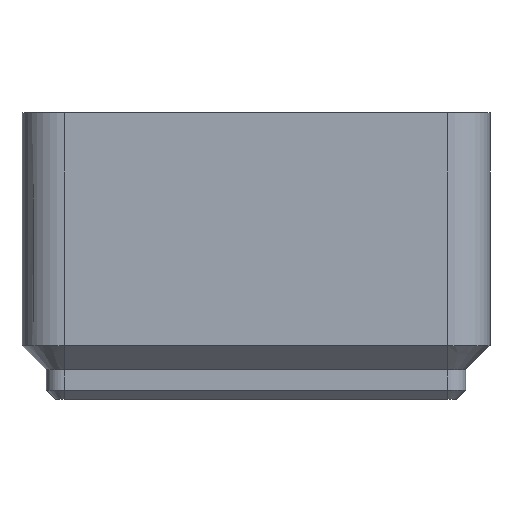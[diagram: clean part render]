
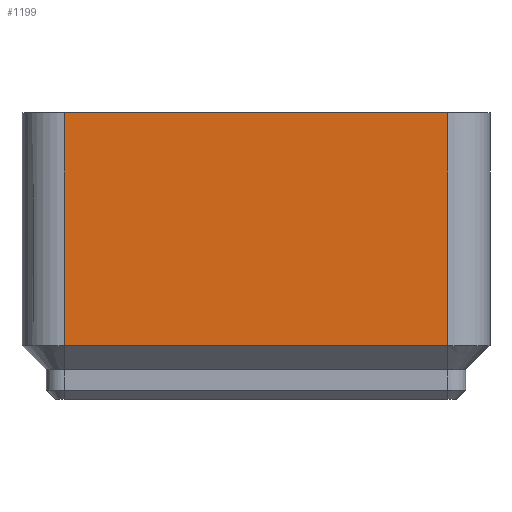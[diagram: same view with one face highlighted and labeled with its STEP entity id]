
A CAD part, left-side view. The second image highlights one B-rep face of the part: STEP entity #1199.
In plain terms, the highlighted planar face has unit normal (-1, 0, 0).
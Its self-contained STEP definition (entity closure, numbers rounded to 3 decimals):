
#416 = PLANE('',#417);
#417 = AXIS2_PLACEMENT_3D('',#418,#419,#420);
#418 = CARTESIAN_POINT('',(-20.75,0.,4.75));
#419 = DIRECTION('',(-0.707,0.,-0.707));
#420 = DIRECTION('',(0.,-1.,-0.));
#793 = VERTEX_POINT('',#794);
#794 = CARTESIAN_POINT('',(-20.75,-17.,4.75));
#812 = EDGE_CURVE('',#793,#813,#815,.T.);
#813 = VERTEX_POINT('',#814);
#814 = CARTESIAN_POINT('',(-20.75,17.,4.75));
#815 = SURFACE_CURVE('',#816,(#820,#827),.PCURVE_S1.);
#816 = LINE('',#817,#818);
#817 = CARTESIAN_POINT('',(-20.75,0.,4.75));
#818 = VECTOR('',#819,1.);
#819 = DIRECTION('',(0.,1.,0.));
#820 = PCURVE('',#416,#821);
#821 = DEFINITIONAL_REPRESENTATION('',(#822),#826);
#822 = LINE('',#823,#824);
#823 = CARTESIAN_POINT('',(0.,0.));
#824 = VECTOR('',#825,1.);
#825 = DIRECTION('',(-1.,0.));
#826 = ( GEOMETRIC_REPRESENTATION_CONTEXT(2) 
PARAMETRIC_REPRESENTATION_CONTEXT() REPRESENTATION_CONTEXT('2D SPACE',''
  ) );
#827 = PCURVE('',#828,#833);
#828 = PLANE('',#829);
#829 = AXIS2_PLACEMENT_3D('',#830,#831,#832);
#830 = CARTESIAN_POINT('',(-20.75,0.,5.05));
#831 = DIRECTION('',(-1.,0.,0.));
#832 = DIRECTION('',(-0.,-1.,-0.));
#833 = DEFINITIONAL_REPRESENTATION('',(#834),#838);
#834 = LINE('',#835,#836);
#835 = CARTESIAN_POINT('',(0.,-0.3));
#836 = VECTOR('',#837,1.);
#837 = DIRECTION('',(-1.,0.));
#838 = ( GEOMETRIC_REPRESENTATION_CONTEXT(2) 
PARAMETRIC_REPRESENTATION_CONTEXT() REPRESENTATION_CONTEXT('2D SPACE',''
  ) );
#1187 = CYLINDRICAL_SURFACE('',#1188,3.75);
#1188 = AXIS2_PLACEMENT_3D('',#1189,#1190,#1191);
#1189 = CARTESIAN_POINT('',(-17.,-17.,4.75));
#1190 = DIRECTION('',(-0.,-0.,1.));
#1191 = DIRECTION('',(-1.,0.,0.));
#1199 = ADVANCED_FACE('',(#1200),#828,.T.);
#1200 = FACE_BOUND('',#1201,.T.);
#1201 = EDGE_LOOP('',(#1202,#1203,#1226,#1254));
#1202 = ORIENTED_EDGE('',*,*,#812,.F.);
#1203 = ORIENTED_EDGE('',*,*,#1204,.T.);
#1204 = EDGE_CURVE('',#793,#1205,#1207,.T.);
#1205 = VERTEX_POINT('',#1206);
#1206 = CARTESIAN_POINT('',(-20.75,-17.,25.4));
#1207 = SURFACE_CURVE('',#1208,(#1212,#1219),.PCURVE_S1.);
#1208 = LINE('',#1209,#1210);
#1209 = CARTESIAN_POINT('',(-20.75,-17.,4.75));
#1210 = VECTOR('',#1211,1.);
#1211 = DIRECTION('',(0.,0.,1.));
#1212 = PCURVE('',#828,#1213);
#1213 = DEFINITIONAL_REPRESENTATION('',(#1214),#1218);
#1214 = LINE('',#1215,#1216);
#1215 = CARTESIAN_POINT('',(17.,-0.3));
#1216 = VECTOR('',#1217,1.);
#1217 = DIRECTION('',(-0.,1.));
#1218 = ( GEOMETRIC_REPRESENTATION_CONTEXT(2) 
PARAMETRIC_REPRESENTATION_CONTEXT() REPRESENTATION_CONTEXT('2D SPACE',''
  ) );
#1219 = PCURVE('',#1187,#1220);
#1220 = DEFINITIONAL_REPRESENTATION('',(#1221),#1225);
#1221 = LINE('',#1222,#1223);
#1222 = CARTESIAN_POINT('',(0.,0.));
#1223 = VECTOR('',#1224,1.);
#1224 = DIRECTION('',(0.,1.));
#1225 = ( GEOMETRIC_REPRESENTATION_CONTEXT(2) 
PARAMETRIC_REPRESENTATION_CONTEXT() REPRESENTATION_CONTEXT('2D SPACE',''
  ) );
#1226 = ORIENTED_EDGE('',*,*,#1227,.T.);
#1227 = EDGE_CURVE('',#1205,#1228,#1230,.T.);
#1228 = VERTEX_POINT('',#1229);
#1229 = CARTESIAN_POINT('',(-20.75,17.,25.4));
#1230 = SURFACE_CURVE('',#1231,(#1235,#1242),.PCURVE_S1.);
#1231 = LINE('',#1232,#1233);
#1232 = CARTESIAN_POINT('',(-20.75,0.,25.4));
#1233 = VECTOR('',#1234,1.);
#1234 = DIRECTION('',(0.,1.,0.));
#1235 = PCURVE('',#828,#1236);
#1236 = DEFINITIONAL_REPRESENTATION('',(#1237),#1241);
#1237 = LINE('',#1238,#1239);
#1238 = CARTESIAN_POINT('',(-0.,20.35));
#1239 = VECTOR('',#1240,1.);
#1240 = DIRECTION('',(-1.,0.));
#1241 = ( GEOMETRIC_REPRESENTATION_CONTEXT(2) 
PARAMETRIC_REPRESENTATION_CONTEXT() REPRESENTATION_CONTEXT('2D SPACE',''
  ) );
#1242 = PCURVE('',#1243,#1248);
#1243 = PLANE('',#1244);
#1244 = AXIS2_PLACEMENT_3D('',#1245,#1246,#1247);
#1245 = CARTESIAN_POINT('',(0.,0.,25.4)
  );
#1246 = DIRECTION('',(0.,0.,1.));
#1247 = DIRECTION('',(1.,0.,-0.));
#1248 = DEFINITIONAL_REPRESENTATION('',(#1249),#1253);
#1249 = LINE('',#1250,#1251);
#1250 = CARTESIAN_POINT('',(-20.75,0.));
#1251 = VECTOR('',#1252,1.);
#1252 = DIRECTION('',(0.,1.));
#1253 = ( GEOMETRIC_REPRESENTATION_CONTEXT(2) 
PARAMETRIC_REPRESENTATION_CONTEXT() REPRESENTATION_CONTEXT('2D SPACE',''
  ) );
#1254 = ORIENTED_EDGE('',*,*,#1255,.T.);
#1255 = EDGE_CURVE('',#1228,#813,#1256,.T.);
#1256 = SURFACE_CURVE('',#1257,(#1261,#1268),.PCURVE_S1.);
#1257 = LINE('',#1258,#1259);
#1258 = CARTESIAN_POINT('',(-20.75,17.,25.4));
#1259 = VECTOR('',#1260,1.);
#1260 = DIRECTION('',(0.,0.,-1.));
#1261 = PCURVE('',#828,#1262);
#1262 = DEFINITIONAL_REPRESENTATION('',(#1263),#1267);
#1263 = LINE('',#1264,#1265);
#1264 = CARTESIAN_POINT('',(-17.,20.35));
#1265 = VECTOR('',#1266,1.);
#1266 = DIRECTION('',(0.,-1.));
#1267 = ( GEOMETRIC_REPRESENTATION_CONTEXT(2) 
PARAMETRIC_REPRESENTATION_CONTEXT() REPRESENTATION_CONTEXT('2D SPACE',''
  ) );
#1268 = PCURVE('',#1269,#1274);
#1269 = CYLINDRICAL_SURFACE('',#1270,3.75);
#1270 = AXIS2_PLACEMENT_3D('',#1271,#1272,#1273);
#1271 = CARTESIAN_POINT('',(-17.,17.,4.75));
#1272 = DIRECTION('',(-0.,-0.,1.));
#1273 = DIRECTION('',(-1.,0.,0.));
#1274 = DEFINITIONAL_REPRESENTATION('',(#1275),#1278);
#1275 = B_SPLINE_CURVE_WITH_KNOTS('',1,(#1276,#1277),.UNSPECIFIED.,.F.,
  .F.,(2,2),(0.,20.65),.PIECEWISE_BEZIER_KNOTS.);
#1276 = CARTESIAN_POINT('',(6.283,20.65));
#1277 = CARTESIAN_POINT('',(6.283,0.));
#1278 = ( GEOMETRIC_REPRESENTATION_CONTEXT(2) 
PARAMETRIC_REPRESENTATION_CONTEXT() REPRESENTATION_CONTEXT('2D SPACE',''
  ) );
